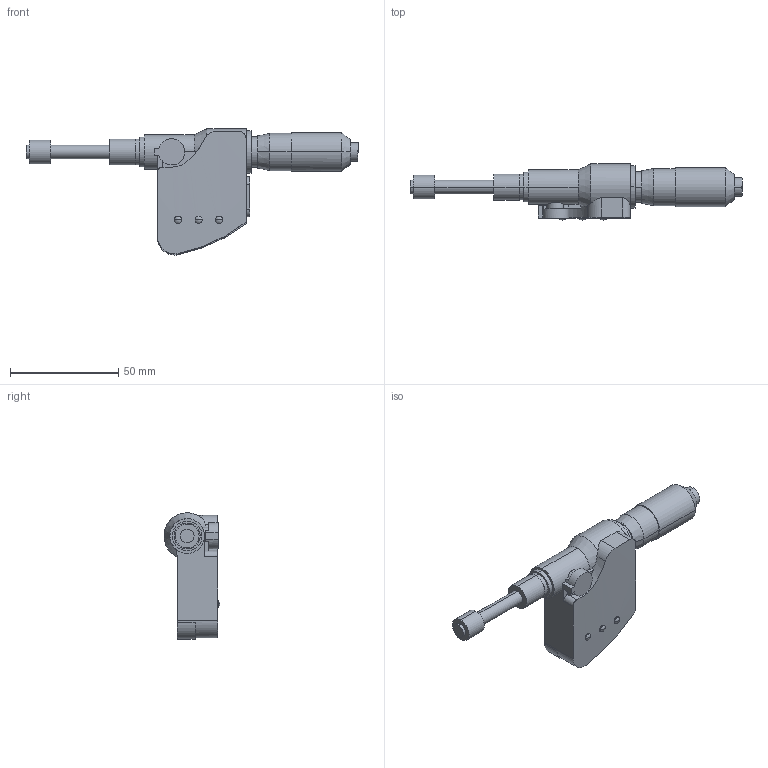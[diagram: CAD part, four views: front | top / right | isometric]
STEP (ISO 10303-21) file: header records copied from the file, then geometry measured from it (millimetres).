
FILE_DESCRIPTION(('Creo Elements/Direct Modeling STEP Export'),'2;1');
FILE_NAME('350_MHN125MXN(IP65).stp','2020-07-06T11:15:12',(''),(''),'Creo Elements/Direct Modeling STEP processor for AP214 (Solid Model)','Creo Elements/Direct Modeling 18.1H 24-Oct-2015 (C) Parametric Technology GmbH','');
FILE_SCHEMA(('AUTOMOTIVE_DESIGN { 1 0 10303 214 1 1 1 1 }'));
Length unit declared in the file: millimetre
Products named in the file (2): 350-261-30.1
Assembly tree (1 placements, depth 2):
  350-261-30.1
    350-261-30.1
Bounding box: 153.7 x 25.91 x 58.46 mm (x, y, z)
Volume: 57552 mm3; surface area: 12912.3 mm2
Topology: 1 solids, 1 shells, 94 faces, 231 edges, 149 vertices
Faces by surface type: cylinder 48, plane 33, sphere 6, cone 5, revolution 2
Entity records: 2939 total; most frequent: CARTESIAN_POINT 750, ORIENTED_EDGE 450, DIRECTION 430, EDGE_CURVE 225, AXIS2_PLACEMENT_3D 165, VERTEX_POINT 149, EDGE_LOOP 110, VECTOR 98
